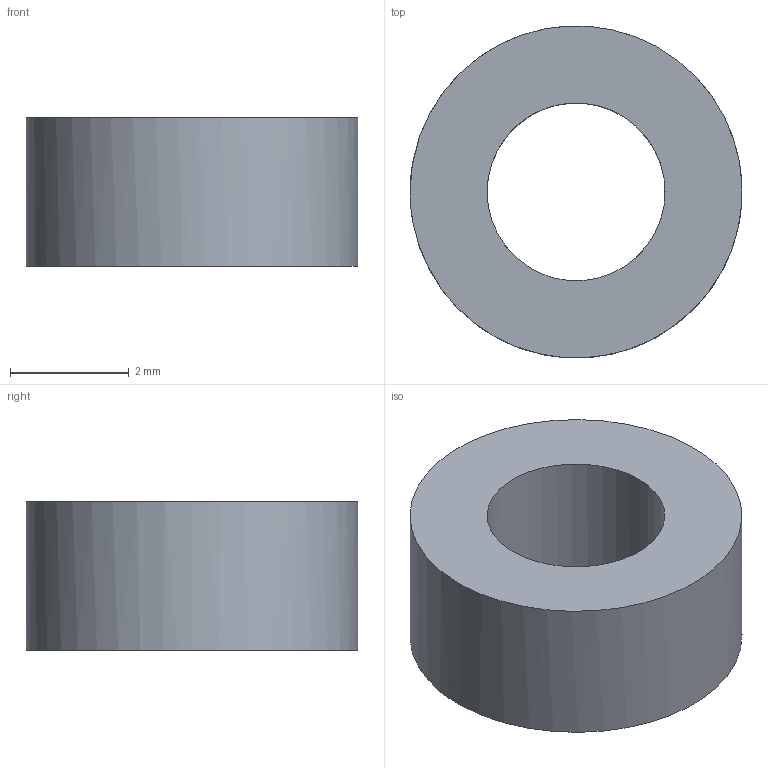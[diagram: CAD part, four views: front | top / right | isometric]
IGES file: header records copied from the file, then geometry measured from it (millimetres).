
Global section: file name: entretoise25; native system: unknown; preprocessor: unknown; author: unknown; organization: unknown; date: 20231018.113552; units: millimetre
Bounding box: 5.6 x 5.59 x 2.5 mm (x, y, z)
Volume: 44 mm3; surface area: 102.8 mm2
Topology: 1 solids, 1 shells, 4 faces, 6 edges, 4 vertices
Faces by surface type: bspline 4
